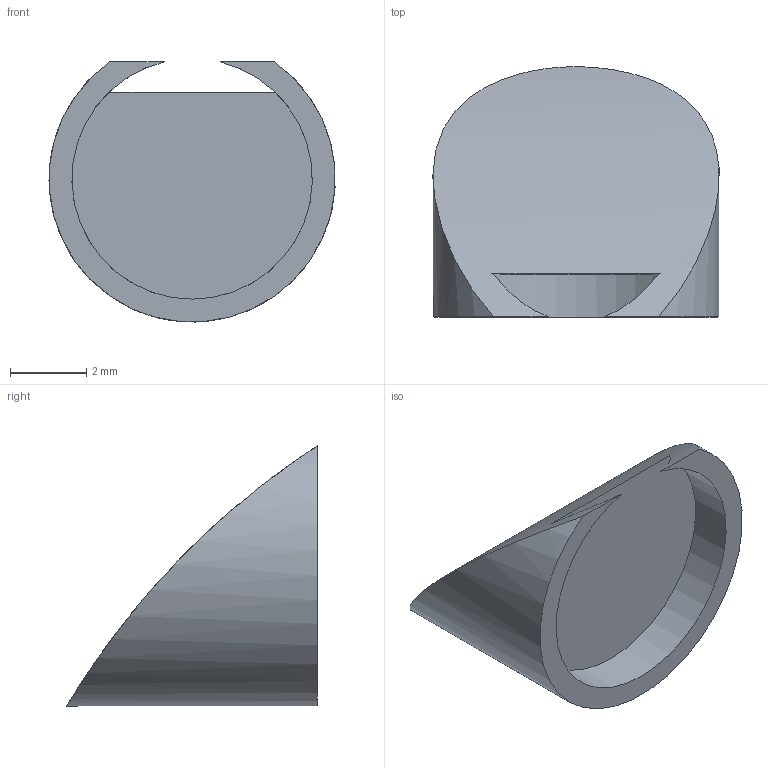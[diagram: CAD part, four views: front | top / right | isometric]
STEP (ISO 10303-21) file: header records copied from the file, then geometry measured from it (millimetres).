
FILE_DESCRIPTION(('Open CASCADE Model'),'2;1');
FILE_NAME('Open CASCADE Shape Model','2026-11-09T05:25:46',('Author'),( 'Open CASCADE'),'Open CASCADE STEP processor 8.0','build123d', 'Unknown');
FILE_SCHEMA(('AUTOMOTIVE_DESIGN { 1 0 10303 214 1 1 1 1 }'));
Length unit declared in the file: millimetre
Products named in the file (1): COMPOUND
Bounding box: 7.49 x 6.56 x 6.81 mm (x, y, z)
Volume: 120.1 mm3; surface area: 192.5 mm2
Topology: 1 solids, 1 shells, 5 faces, 9 edges, 6 vertices
Faces by surface type: cylinder 3, plane 2
Entity records: 668 total; most frequent: CARTESIAN_POINT 493, DIRECTION 24, ORIENTED_EDGE 18, PCURVE 18, DEFINITIONAL_REPRESENTATION 18, B_SPLINE_CURVE_WITH_KNOTS 15, AXIS2_PLACEMENT_3D 9, EDGE_CURVE 9
